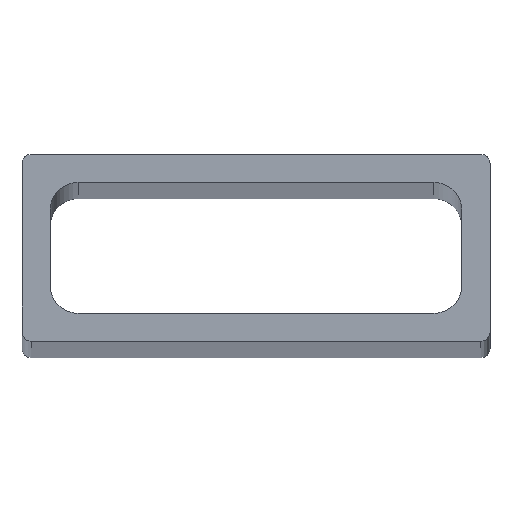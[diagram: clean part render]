
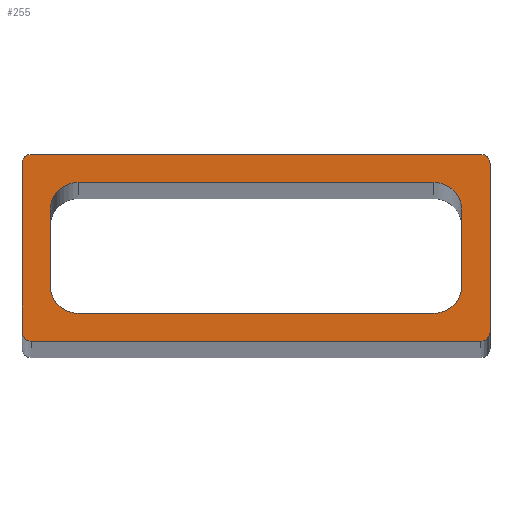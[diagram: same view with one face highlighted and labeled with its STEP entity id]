
A CAD part, top view. The second image highlights one B-rep face of the part: STEP entity #255.
In plain terms, the highlighted planar face has unit normal (0, 0, 1).
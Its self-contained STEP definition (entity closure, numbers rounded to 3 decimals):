
#6 = VERTEX_POINT ( 'NONE', #613 ) ;
#7 = CARTESIAN_POINT ( 'NONE',  ( 24., 10., 1000. ) ) ;
#10 = DIRECTION ( 'NONE',  ( -1., 0., 0. ) ) ;
#15 = VECTOR ( 'NONE', #576, 1000. ) ;
#19 = LINE ( 'NONE', #122, #500 ) ;
#21 = CARTESIAN_POINT ( 'NONE',  ( -24., -10., 1000. ) ) ;
#24 = VERTEX_POINT ( 'NONE', #193 ) ;
#26 = DIRECTION ( 'NONE',  ( 0., -1., 0. ) ) ;
#27 = EDGE_CURVE ( 'NONE', #253, #24, #591, .T. ) ;
#47 = CARTESIAN_POINT ( 'NONE',  ( -25., -10., 1000. ) ) ;
#51 = DIRECTION ( 'NONE',  ( 0., 0., 1. ) ) ;
#65 = VERTEX_POINT ( 'NONE', #521 ) ;
#69 = CIRCLE ( 'NONE', #211, 1. ) ;
#70 = CARTESIAN_POINT ( 'NONE',  ( 0., 0., 1000. ) ) ;
#77 = CARTESIAN_POINT ( 'NONE',  ( -22., -4., 1000. ) ) ;
#87 = EDGE_CURVE ( 'NONE', #281, #234, #618, .T. ) ;
#89 = EDGE_CURVE ( 'NONE', #172, #600, #116, .T. ) ;
#90 = EDGE_CURVE ( 'NONE', #572, #130, #194, .T. ) ;
#91 = ORIENTED_EDGE ( 'NONE', *, *, #465, .T. ) ;
#94 = VERTEX_POINT ( 'NONE', #533 ) ;
#98 = EDGE_CURVE ( 'NONE', #24, #281, #69, .T. ) ;
#99 = VECTOR ( 'NONE', #26, 1000. ) ;
#101 = EDGE_CURVE ( 'NONE', #94, #65, #351, .T. ) ;
#104 = DIRECTION ( 'NONE',  ( 0., 0., -1. ) ) ;
#106 = DIRECTION ( 'NONE',  ( -1., 0., 0. ) ) ;
#108 = DIRECTION ( 'NONE',  ( 0., 0., 1. ) ) ;
#116 = CIRCLE ( 'NONE', #236, 3. ) ;
#117 = VECTOR ( 'NONE', #203, 1000. ) ;
#118 = AXIS2_PLACEMENT_3D ( 'NONE', #70, #590, #409 ) ;
#120 = EDGE_CURVE ( 'NONE', #94, #261, #327, .T. ) ;
#122 = CARTESIAN_POINT ( 'NONE',  ( -22., 7., 1000. ) ) ;
#125 = DIRECTION ( 'NONE',  ( -1., 0., 0. ) ) ;
#130 = VERTEX_POINT ( 'NONE', #200 ) ;
#139 = ORIENTED_EDGE ( 'NONE', *, *, #422, .F. ) ;
#151 = CARTESIAN_POINT ( 'NONE',  ( 24., -9., 1000. ) ) ;
#156 = ORIENTED_EDGE ( 'NONE', *, *, #579, .T. ) ;
#159 = CARTESIAN_POINT ( 'NONE',  ( -25., -9., 1000. ) ) ;
#165 = EDGE_CURVE ( 'NONE', #199, #253, #498, .T. ) ;
#166 = CARTESIAN_POINT ( 'NONE',  ( -19., -7., 1000. ) ) ;
#167 = DIRECTION ( 'NONE',  ( 0., 0., 1. ) ) ;
#172 = VERTEX_POINT ( 'NONE', #401 ) ;
#178 = CIRCLE ( 'NONE', #328, 3. ) ;
#181 = EDGE_LOOP ( 'NONE', ( #450, #290, #242, #156, #233, #601, #91, #319 ) ) ;
#186 = AXIS2_PLACEMENT_3D ( 'NONE', #503, #167, #125 ) ;
#193 = CARTESIAN_POINT ( 'NONE',  ( 24., -10., 1000. ) ) ;
#194 = LINE ( 'NONE', #440, #278 ) ;
#199 = VERTEX_POINT ( 'NONE', #159 ) ;
#200 = CARTESIAN_POINT ( 'NONE',  ( -24., 10., 1000. ) ) ;
#202 = CARTESIAN_POINT ( 'NONE',  ( -19., -4., 1000. ) ) ;
#203 = DIRECTION ( 'NONE',  ( 0., 1., 0. ) ) ;
#206 = DIRECTION ( 'NONE',  ( 0., 0., -1. ) ) ;
#207 = DIRECTION ( 'NONE',  ( -1., 0., 0. ) ) ;
#211 = AXIS2_PLACEMENT_3D ( 'NONE', #151, #108, #442 ) ;
#226 = VECTOR ( 'NONE', #251, 1000. ) ;
#228 = ORIENTED_EDGE ( 'NONE', *, *, #89, .T. ) ;
#230 = CIRCLE ( 'NONE', #256, 3. ) ;
#233 = ORIENTED_EDGE ( 'NONE', *, *, #90, .T. ) ;
#234 = VERTEX_POINT ( 'NONE', #291 ) ;
#236 = AXIS2_PLACEMENT_3D ( 'NONE', #398, #104, #106 ) ;
#242 = ORIENTED_EDGE ( 'NONE', *, *, #87, .T. ) ;
#244 = CARTESIAN_POINT ( 'NONE',  ( 24., 9., 1000. ) ) ;
#246 = DIRECTION ( 'NONE',  ( 0., 0., -1. ) ) ;
#248 = CARTESIAN_POINT ( 'NONE',  ( 19., 4., 1000. ) ) ;
#251 = DIRECTION ( 'NONE',  ( 0., 1., 0. ) ) ;
#253 = VERTEX_POINT ( 'NONE', #21 ) ;
#255 = ADVANCED_FACE ( 'NONE', ( #268, #385 ), #497, .F. ) ;
#256 = AXIS2_PLACEMENT_3D ( 'NONE', #202, #535, #410 ) ;
#259 = CARTESIAN_POINT ( 'NONE',  ( 19., 7., 1000. ) ) ;
#260 = EDGE_CURVE ( 'NONE', #359, #261, #363, .T. ) ;
#261 = VERTEX_POINT ( 'NONE', #357 ) ;
#262 = CARTESIAN_POINT ( 'NONE',  ( -22., -7., 1000. ) ) ;
#266 = DIRECTION ( 'NONE',  ( -1., 0., 0. ) ) ;
#268 = FACE_OUTER_BOUND ( 'NONE', #181, .T. ) ;
#276 = EDGE_LOOP ( 'NONE', ( #139, #228, #557, #296, #399, #322, #493, #589 ) ) ;
#278 = VECTOR ( 'NONE', #584, 1000. ) ;
#281 = VERTEX_POINT ( 'NONE', #453 ) ;
#288 = VERTEX_POINT ( 'NONE', #259 ) ;
#290 = ORIENTED_EDGE ( 'NONE', *, *, #98, .T. ) ;
#291 = CARTESIAN_POINT ( 'NONE',  ( 25., 9., 1000. ) ) ;
#293 = DIRECTION ( 'NONE',  ( -1., 0., 0. ) ) ;
#295 = CARTESIAN_POINT ( 'NONE',  ( -24., -9., 1000. ) ) ;
#296 = ORIENTED_EDGE ( 'NONE', *, *, #331, .T. ) ;
#312 = CARTESIAN_POINT ( 'NONE',  ( -25., -10., 1000. ) ) ;
#317 = LINE ( 'NONE', #312, #413 ) ;
#319 = ORIENTED_EDGE ( 'NONE', *, *, #165, .T. ) ;
#322 = ORIENTED_EDGE ( 'NONE', *, *, #120, .T. ) ;
#327 = CIRCLE ( 'NONE', #501, 3. ) ;
#328 = AXIS2_PLACEMENT_3D ( 'NONE', #248, #206, #293 ) ;
#331 = EDGE_CURVE ( 'NONE', #288, #65, #178, .T. ) ;
#332 = CARTESIAN_POINT ( 'NONE',  ( -19., 7., 1000. ) ) ;
#333 = LINE ( 'NONE', #262, #99 ) ;
#340 = CARTESIAN_POINT ( 'NONE',  ( 22., -7., 1000. ) ) ;
#344 = CARTESIAN_POINT ( 'NONE',  ( 19., -4., 1000. ) ) ;
#346 = CARTESIAN_POINT ( 'NONE',  ( -22., -7., 1000. ) ) ;
#351 = LINE ( 'NONE', #340, #226 ) ;
#357 = CARTESIAN_POINT ( 'NONE',  ( 19., -7., 1000. ) ) ;
#359 = VERTEX_POINT ( 'NONE', #166 ) ;
#363 = LINE ( 'NONE', #346, #534 ) ;
#372 = EDGE_CURVE ( 'NONE', #288, #600, #19, .T. ) ;
#375 = CIRCLE ( 'NONE', #537, 1. ) ;
#384 = AXIS2_PLACEMENT_3D ( 'NONE', #295, #448, #207 ) ;
#385 = FACE_BOUND ( 'NONE', #276, .T. ) ;
#398 = CARTESIAN_POINT ( 'NONE',  ( -19., 4., 1000. ) ) ;
#399 = ORIENTED_EDGE ( 'NONE', *, *, #101, .F. ) ;
#401 = CARTESIAN_POINT ( 'NONE',  ( -22., 4., 1000. ) ) ;
#403 = DIRECTION ( 'NONE',  ( 1., 0., 0. ) ) ;
#409 = DIRECTION ( 'NONE',  ( -1., 0., 0. ) ) ;
#410 = DIRECTION ( 'NONE',  ( -1., 0., 0. ) ) ;
#413 = VECTOR ( 'NONE', #423, 1000. ) ;
#422 = EDGE_CURVE ( 'NONE', #172, #439, #333, .T. ) ;
#423 = DIRECTION ( 'NONE',  ( 0., -1., 0. ) ) ;
#436 = CARTESIAN_POINT ( 'NONE',  ( 25., -10., 1000. ) ) ;
#439 = VERTEX_POINT ( 'NONE', #77 ) ;
#440 = CARTESIAN_POINT ( 'NONE',  ( -25., 10., 1000. ) ) ;
#442 = DIRECTION ( 'NONE',  ( -1., 0., 0. ) ) ;
#448 = DIRECTION ( 'NONE',  ( 0., 0., 1. ) ) ;
#450 = ORIENTED_EDGE ( 'NONE', *, *, #27, .T. ) ;
#453 = CARTESIAN_POINT ( 'NONE',  ( 25., -9., 1000. ) ) ;
#465 = EDGE_CURVE ( 'NONE', #6, #199, #317, .T. ) ;
#485 = DIRECTION ( 'NONE',  ( -1., 0., 0. ) ) ;
#493 = ORIENTED_EDGE ( 'NONE', *, *, #260, .F. ) ;
#497 = PLANE ( 'NONE',  #118 ) ;
#498 = CIRCLE ( 'NONE', #384, 1. ) ;
#500 = VECTOR ( 'NONE', #266, 1000. ) ;
#501 = AXIS2_PLACEMENT_3D ( 'NONE', #344, #246, #485 ) ;
#503 = CARTESIAN_POINT ( 'NONE',  ( -24., 9., 1000. ) ) ;
#521 = CARTESIAN_POINT ( 'NONE',  ( 22., 4., 1000. ) ) ;
#522 = CIRCLE ( 'NONE', #186, 1. ) ;
#533 = CARTESIAN_POINT ( 'NONE',  ( 22., -4., 1000. ) ) ;
#534 = VECTOR ( 'NONE', #403, 1000. ) ;
#535 = DIRECTION ( 'NONE',  ( 0., 0., -1. ) ) ;
#537 = AXIS2_PLACEMENT_3D ( 'NONE', #244, #51, #10 ) ;
#557 = ORIENTED_EDGE ( 'NONE', *, *, #372, .F. ) ;
#572 = VERTEX_POINT ( 'NONE', #7 ) ;
#576 = DIRECTION ( 'NONE',  ( 1., 0., 0. ) ) ;
#579 = EDGE_CURVE ( 'NONE', #234, #572, #375, .T. ) ;
#584 = DIRECTION ( 'NONE',  ( -1., 0., 0. ) ) ;
#589 = ORIENTED_EDGE ( 'NONE', *, *, #608, .T. ) ;
#590 = DIRECTION ( 'NONE',  ( 0., 0., -1. ) ) ;
#591 = LINE ( 'NONE', #47, #15 ) ;
#600 = VERTEX_POINT ( 'NONE', #332 ) ;
#601 = ORIENTED_EDGE ( 'NONE', *, *, #610, .T. ) ;
#608 = EDGE_CURVE ( 'NONE', #359, #439, #230, .T. ) ;
#610 = EDGE_CURVE ( 'NONE', #130, #6, #522, .T. ) ;
#613 = CARTESIAN_POINT ( 'NONE',  ( -25., 9., 1000. ) ) ;
#618 = LINE ( 'NONE', #436, #117 ) ;
